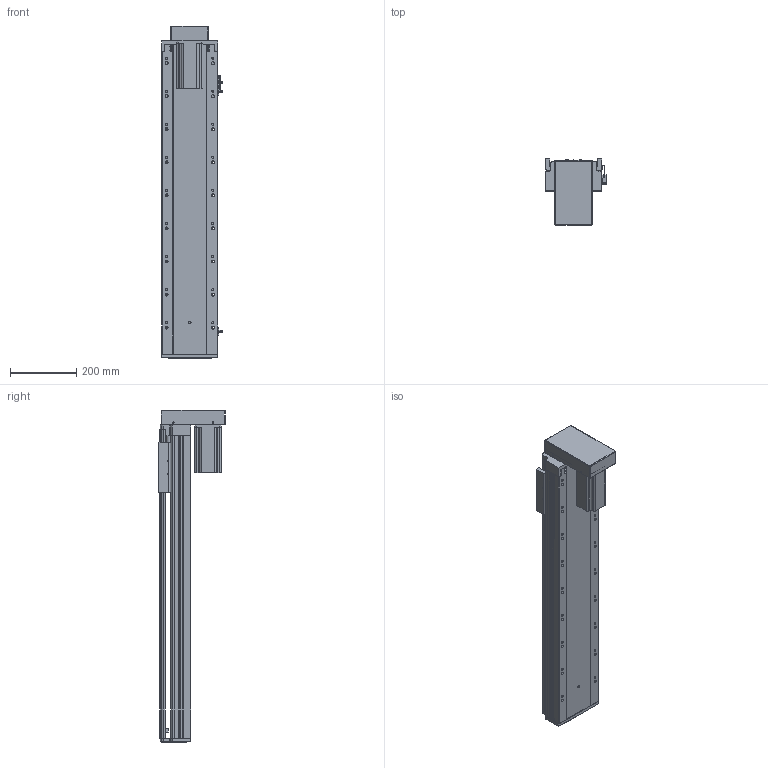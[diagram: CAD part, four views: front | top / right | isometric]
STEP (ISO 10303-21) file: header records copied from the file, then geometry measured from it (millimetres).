
FILE_DESCRIPTION (( 'STEP AP203' ), '1' );
FILE_NAME ('RY170-L2510-300-BK.SLDASM_700.step', '2021-03-12T08:58:12', ( '盈信电脑' ), ( '东莞市道滘镇水果街19号' ), 'SwSTEP 2.0', 'SolidWorks 2012', '' );
FILE_SCHEMA (( 'CONFIG_CONTROL_DESIGN' ));
Length unit declared in the file: millimetre
Products named in the file (14): 怢湛750W萇儂ㄗ80遺ㄘ; RY170狟殏萇儂欶; RY170-L2510-300-BK.SLDASM_700; RY170-狟殏750W萇儂傷; RY170-狟殏萇儂假蚾啣; 滅袉蝶18-20; RY170转折电机端支撑座(7004); 滅袉蝶18-10; RY170綴裔啣; RY170外置感应片(200共用）; 覜茼ん672; RY170-300倰第裔啣-BK_700; RY170-300倰第菁釱-BK_700; 改造-RY170铝滑块25丝杆螺母
Assembly tree (15 placements, depth 3):
  RY170-L2510-300-BK.SLDASM_700
    RY170-300倰第菁釱-BK_700
    改造-RY170铝滑块25丝杆螺母
    RY170-300倰第裔啣-BK_700
    RY170綴裔啣
    覜茼ん672  x3
    RY170外置感应片(200共用）
    滅袉蝶18-20
    滅袉蝶18-10
    RY170转折电机端支撑座(7004)
    RY170-狟殏750W萇儂傷
      RY170-狟殏萇儂假蚾啣
      RY170狟殏萇儂欶
      怢湛750W萇儂ㄗ80遺ㄘ
Bounding box: 183.7 x 200.8 x 1004.5 mm (x, y, z)
Volume: 5928937.1 mm3; surface area: 1795654.3 mm2
Topology: 14 solids, 14 shells, 2180 faces, 6305 edges, 4060 vertices
Faces by surface type: plane 1084, cylinder 911, cone 166, bspline 19
Entity records: 71434 total; most frequent: CARTESIAN_POINT 17565, ORIENTED_EDGE 11370, DIRECTION 10381, EDGE_CURVE 5685, VERTEX_POINT 3740, VECTOR 3473, LINE 3473, AXIS2_PLACEMENT_3D 3454
